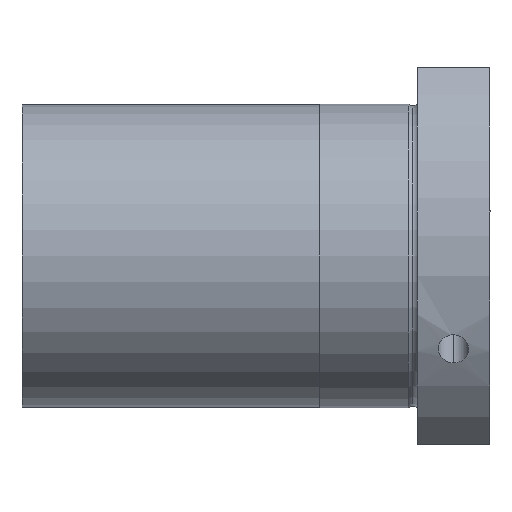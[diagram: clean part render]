
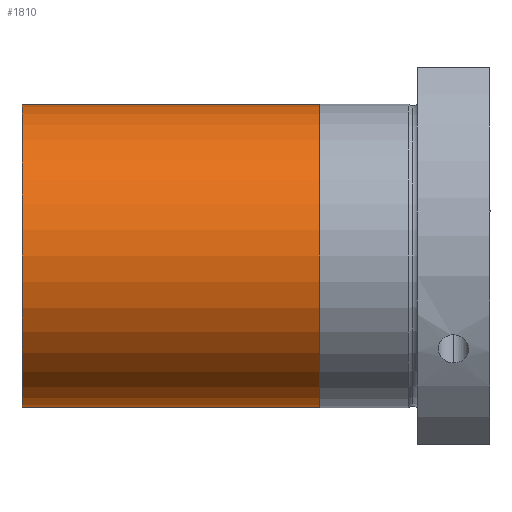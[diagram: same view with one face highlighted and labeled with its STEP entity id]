
A CAD part, front view. The second image highlights one B-rep face of the part: STEP entity #1810.
In plain terms, the highlighted cylindrical face has radius 24.85 mm (diameter 49.7 mm), a partial arc.
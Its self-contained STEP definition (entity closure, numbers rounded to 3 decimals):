
#33 = EDGE_CURVE ( 'NONE', #2264, #507, #1124, .T. ) ;
#93 = VERTEX_POINT ( 'NONE', #2590 ) ;
#142 = DIRECTION ( 'NONE',  ( -1., 0., 0. ) ) ;
#160 = AXIS2_PLACEMENT_3D ( 'NONE', #3116, #142, #1388 ) ;
#362 = CARTESIAN_POINT ( 'NONE',  ( 2.615, 0., 0. ) ) ;
#378 = ORIENTED_EDGE ( 'NONE', *, *, #1732, .T. ) ;
#429 = FACE_OUTER_BOUND ( 'NONE', #1921, .T. ) ;
#460 = CARTESIAN_POINT ( 'NONE',  ( -63.719, 0., 24.85 ) ) ;
#507 = VERTEX_POINT ( 'NONE', #2982 ) ;
#608 = DIRECTION ( 'NONE',  ( 0., 0., 1. ) ) ;
#735 = CARTESIAN_POINT ( 'NONE',  ( -63.719, 0., -24.85 ) ) ;
#744 = CARTESIAN_POINT ( 'NONE',  ( -46.385, 0., 0. ) ) ;
#791 = ORIENTED_EDGE ( 'NONE', *, *, #3224, .F. ) ;
#960 = DIRECTION ( 'NONE',  ( -1., 0., 0. ) ) ;
#996 = DIRECTION ( 'NONE',  ( 0., 0., 1. ) ) ;
#1124 = LINE ( 'NONE', #735, #3235 ) ;
#1199 = EDGE_CURVE ( 'NONE', #93, #2331, #1889, .T. ) ;
#1260 = DIRECTION ( 'NONE',  ( -1., 0., 0. ) ) ;
#1388 = DIRECTION ( 'NONE',  ( 0., 0., 1. ) ) ;
#1547 = CARTESIAN_POINT ( 'NONE',  ( 2.615, 0., -24.85 ) ) ;
#1732 = EDGE_CURVE ( 'NONE', #2264, #93, #2790, .T. ) ;
#1810 = ADVANCED_FACE ( 'NONE', ( #429 ), #2234, .T. ) ;
#1874 = CARTESIAN_POINT ( 'NONE',  ( -46.385, 0., 24.85 ) ) ;
#1889 = LINE ( 'NONE', #460, #2151 ) ;
#1921 = EDGE_LOOP ( 'NONE', ( #2508, #378, #3226, #791 ) ) ;
#2118 = DIRECTION ( 'NONE',  ( -1., 0., 0. ) ) ;
#2151 = VECTOR ( 'NONE', #960, 1000. ) ;
#2234 = CYLINDRICAL_SURFACE ( 'NONE', #160, 24.85 ) ;
#2264 = VERTEX_POINT ( 'NONE', #1547 ) ;
#2331 = VERTEX_POINT ( 'NONE', #1874 ) ;
#2482 = DIRECTION ( 'NONE',  ( -1., 0., 0. ) ) ;
#2508 = ORIENTED_EDGE ( 'NONE', *, *, #33, .F. ) ;
#2590 = CARTESIAN_POINT ( 'NONE',  ( 2.615, 0., 24.85 ) ) ;
#2730 = AXIS2_PLACEMENT_3D ( 'NONE', #362, #2118, #608 ) ;
#2790 = CIRCLE ( 'NONE', #2730, 24.85 ) ;
#2982 = CARTESIAN_POINT ( 'NONE',  ( -46.385, 0., -24.85 ) ) ;
#3116 = CARTESIAN_POINT ( 'NONE',  ( -63.719, 0., 0. ) ) ;
#3157 = CIRCLE ( 'NONE', #3182, 24.85 ) ;
#3182 = AXIS2_PLACEMENT_3D ( 'NONE', #744, #2482, #996 ) ;
#3224 = EDGE_CURVE ( 'NONE', #507, #2331, #3157, .T. ) ;
#3226 = ORIENTED_EDGE ( 'NONE', *, *, #1199, .T. ) ;
#3235 = VECTOR ( 'NONE', #1260, 1000. ) ;
